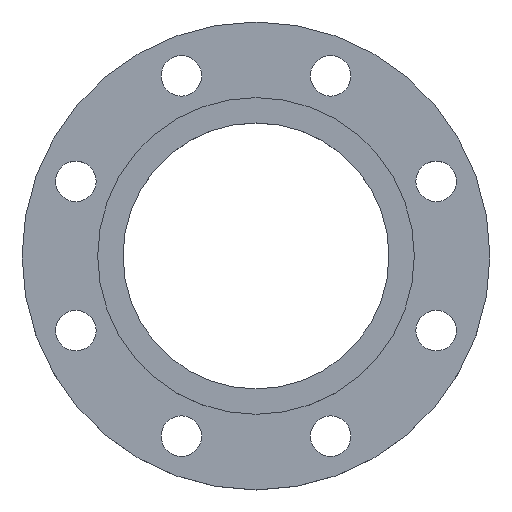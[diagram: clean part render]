
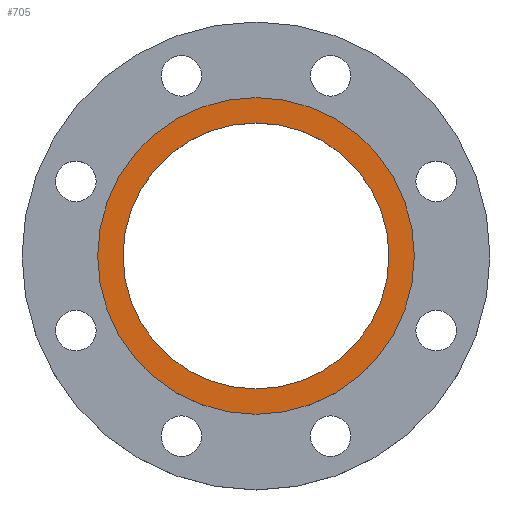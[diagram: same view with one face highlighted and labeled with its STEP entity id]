
A CAD part, top view. The second image highlights one B-rep face of the part: STEP entity #705.
In plain terms, the highlighted planar face has unit normal (0, 0, 1).
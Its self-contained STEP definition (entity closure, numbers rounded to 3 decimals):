
#19 = CARTESIAN_POINT ( 'NONE',  ( 0., 0., 0. ) ) ;
#26 = AXIS2_PLACEMENT_3D ( 'NONE', #695, #52, #366 ) ;
#39 = ORIENTED_EDGE ( 'NONE', *, *, #684, .T. ) ;
#52 = DIRECTION ( 'NONE',  ( 0., 0., -1. ) ) ;
#65 = ORIENTED_EDGE ( 'NONE', *, *, #683, .F. ) ;
#91 = CIRCLE ( 'NONE', #93, 85.25 ) ;
#93 = AXIS2_PLACEMENT_3D ( 'NONE', #728, #100, #414 ) ;
#95 = CIRCLE ( 'NONE', #96, 101.5 ) ;
#96 = AXIS2_PLACEMENT_3D ( 'NONE', #19, #326, #609 ) ;
#100 = DIRECTION ( 'NONE',  ( 0., 0., -1. ) ) ;
#107 = CARTESIAN_POINT ( 'NONE',  ( 0., 0., 0. ) ) ;
#175 = DIRECTION ( 'NONE',  ( 0., 0., -1. ) ) ;
#181 = FACE_BOUND ( 'NONE', #753, .T. ) ;
#250 = ORIENTED_EDGE ( 'NONE', *, *, #697, .F. ) ;
#326 = DIRECTION ( 'NONE',  ( 0., 0., -1. ) ) ;
#351 = AXIS2_PLACEMENT_3D ( 'NONE', #107, #418, #671 ) ;
#361 = AXIS2_PLACEMENT_3D ( 'NONE', #787, #175, #483 ) ;
#366 = DIRECTION ( 'NONE',  ( -1., 0., 0. ) ) ;
#371 = CIRCLE ( 'NONE', #361, 101.5 ) ;
#414 = DIRECTION ( 'NONE',  ( -1., 0., 0. ) ) ;
#418 = DIRECTION ( 'NONE',  ( 0., 0., 1. ) ) ;
#431 = VERTEX_POINT ( 'NONE', #561 ) ;
#483 = DIRECTION ( 'NONE',  ( -1., 0., 0. ) ) ;
#487 = ORIENTED_EDGE ( 'NONE', *, *, #519, .T. ) ;
#488 = FACE_OUTER_BOUND ( 'NONE', #613, .T. ) ;
#493 = CIRCLE ( 'NONE', #26, 85.25 ) ;
#500 = CARTESIAN_POINT ( 'NONE',  ( 85.25, 0., 0. ) ) ;
#519 = EDGE_CURVE ( 'NONE', #431, #775, #493, .T. ) ;
#525 = VERTEX_POINT ( 'NONE', #871 ) ;
#561 = CARTESIAN_POINT ( 'NONE',  ( -85.25, 0., 0. ) ) ;
#609 = DIRECTION ( 'NONE',  ( -1., 0., 0. ) ) ;
#613 = EDGE_LOOP ( 'NONE', ( #65, #250 ) ) ;
#638 = CARTESIAN_POINT ( 'NONE',  ( -101.5, 0., 0. ) ) ;
#671 = DIRECTION ( 'NONE',  ( 1., 0., 0. ) ) ;
#683 = EDGE_CURVE ( 'NONE', #861, #525, #371, .T. ) ;
#684 = EDGE_CURVE ( 'NONE', #775, #431, #91, .T. ) ;
#695 = CARTESIAN_POINT ( 'NONE',  ( 0., 0., 0. ) ) ;
#697 = EDGE_CURVE ( 'NONE', #525, #861, #95, .T. ) ;
#705 = ADVANCED_FACE ( 'NONE', ( #181, #488 ), #732, .T. ) ;
#728 = CARTESIAN_POINT ( 'NONE',  ( 0., 0., 0. ) ) ;
#732 = PLANE ( 'NONE',  #351 ) ;
#753 = EDGE_LOOP ( 'NONE', ( #487, #39 ) ) ;
#775 = VERTEX_POINT ( 'NONE', #500 ) ;
#787 = CARTESIAN_POINT ( 'NONE',  ( 0., 0., 0. ) ) ;
#861 = VERTEX_POINT ( 'NONE', #638 ) ;
#871 = CARTESIAN_POINT ( 'NONE',  ( 101.5, 0., 0. ) ) ;
